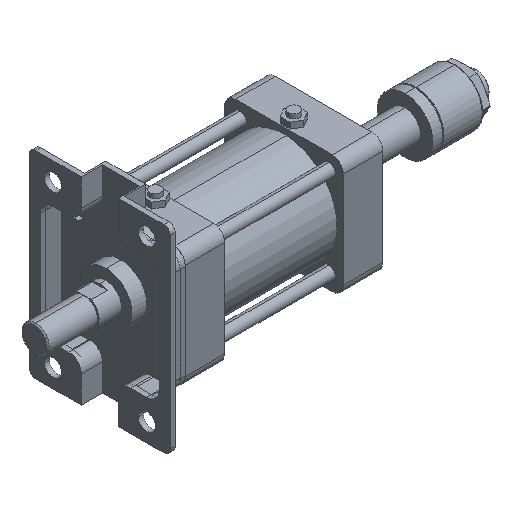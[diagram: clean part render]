
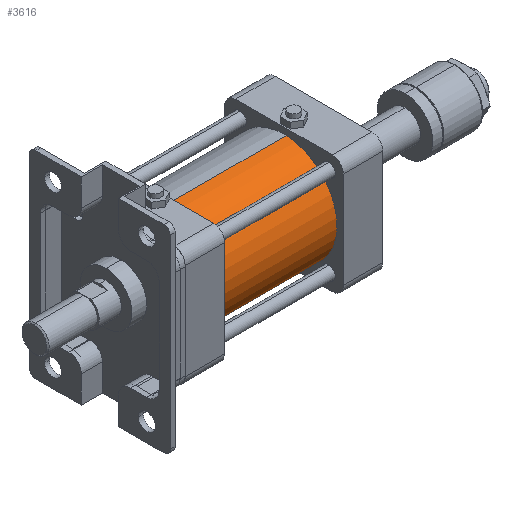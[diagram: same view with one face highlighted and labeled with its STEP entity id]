
A CAD part, isometric view. The second image highlights one B-rep face of the part: STEP entity #3616.
In plain terms, the highlighted cylindrical face has radius 43 mm (diameter 86 mm), a partial arc.
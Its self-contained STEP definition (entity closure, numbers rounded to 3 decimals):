
#146 = ORIENTED_EDGE ( 'NONE', *, *, #5435, .T. ) ;
#278 = DIRECTION ( 'NONE',  ( -1., 0., 0. ) ) ;
#318 = DIRECTION ( 'NONE',  ( -1., 0., 0. ) ) ;
#337 = CARTESIAN_POINT ( 'NONE',  ( 48., 0., 43. ) ) ;
#432 = DIRECTION ( 'NONE',  ( 0., 0., 1. ) ) ;
#695 = CYLINDRICAL_SURFACE ( 'NONE', #3456, 43. ) ;
#836 = CARTESIAN_POINT ( 'NONE',  ( 48., 0., 0. ) ) ;
#1253 = DIRECTION ( 'NONE',  ( -1., 0., 0. ) ) ;
#1818 = CARTESIAN_POINT ( 'NONE',  ( -29.1, 0., -43. ) ) ;
#2107 = CARTESIAN_POINT ( 'NONE',  ( -29.1, 0., 43. ) ) ;
#2322 = EDGE_LOOP ( 'NONE', ( #7801, #146, #8857, #5961 ) ) ;
#2767 = VECTOR ( 'NONE', #318, 1000. ) ;
#3160 = CARTESIAN_POINT ( 'NONE',  ( -29.1, 0., 0. ) ) ;
#3311 = DIRECTION ( 'NONE',  ( 0., 0., 1. ) ) ;
#3456 = AXIS2_PLACEMENT_3D ( 'NONE', #3160, #1253, #3536 ) ;
#3536 = DIRECTION ( 'NONE',  ( 0., 0., 1. ) ) ;
#3616 = ADVANCED_FACE ( 'NONE', ( #8811 ), #695, .T. ) ;
#3972 = CIRCLE ( 'NONE', #7298, 43. ) ;
#4085 = CARTESIAN_POINT ( 'NONE',  ( -48., 0., -43. ) ) ;
#4464 = CIRCLE ( 'NONE', #9715, 43. ) ;
#4572 = CARTESIAN_POINT ( 'NONE',  ( -48., 0., 0. ) ) ;
#4772 = VECTOR ( 'NONE', #7223, 1000. ) ;
#5198 = EDGE_CURVE ( 'NONE', #5802, #8065, #9129, .T. ) ;
#5222 = EDGE_CURVE ( 'NONE', #7611, #8065, #4464, .T. ) ;
#5435 = EDGE_CURVE ( 'NONE', #7761, #5802, #3972, .T. ) ;
#5802 = VERTEX_POINT ( 'NONE', #337 ) ;
#5961 = ORIENTED_EDGE ( 'NONE', *, *, #5222, .F. ) ;
#6495 = CARTESIAN_POINT ( 'NONE',  ( 48., 0., -43. ) ) ;
#7223 = DIRECTION ( 'NONE',  ( -1., 0., 0. ) ) ;
#7298 = AXIS2_PLACEMENT_3D ( 'NONE', #836, #278, #3311 ) ;
#7611 = VERTEX_POINT ( 'NONE', #4085 ) ;
#7761 = VERTEX_POINT ( 'NONE', #6495 ) ;
#7801 = ORIENTED_EDGE ( 'NONE', *, *, #7825, .F. ) ;
#7825 = EDGE_CURVE ( 'NONE', #7761, #7611, #10559, .T. ) ;
#8065 = VERTEX_POINT ( 'NONE', #10538 ) ;
#8811 = FACE_OUTER_BOUND ( 'NONE', #2322, .T. ) ;
#8857 = ORIENTED_EDGE ( 'NONE', *, *, #5198, .T. ) ;
#9129 = LINE ( 'NONE', #2107, #4772 ) ;
#9715 = AXIS2_PLACEMENT_3D ( 'NONE', #4572, #11235, #432 ) ;
#10538 = CARTESIAN_POINT ( 'NONE',  ( -48., 0., 43. ) ) ;
#10559 = LINE ( 'NONE', #1818, #2767 ) ;
#11235 = DIRECTION ( 'NONE',  ( -1., 0., 0. ) ) ;
